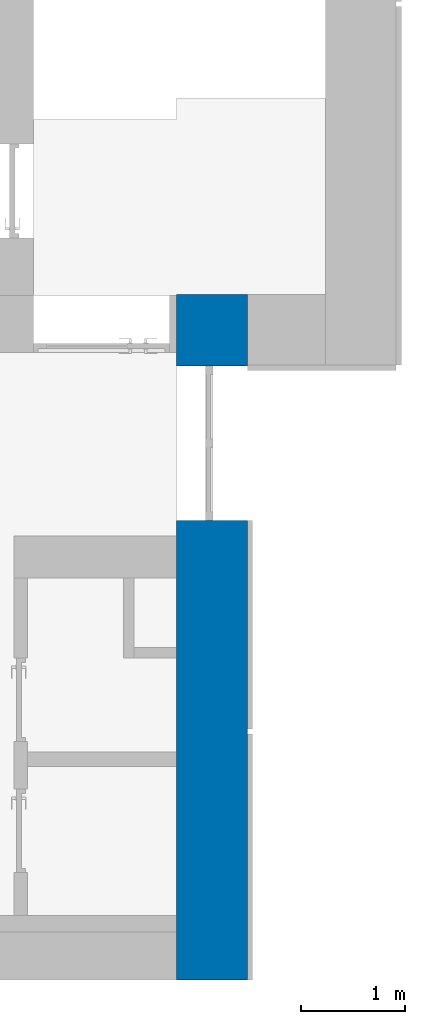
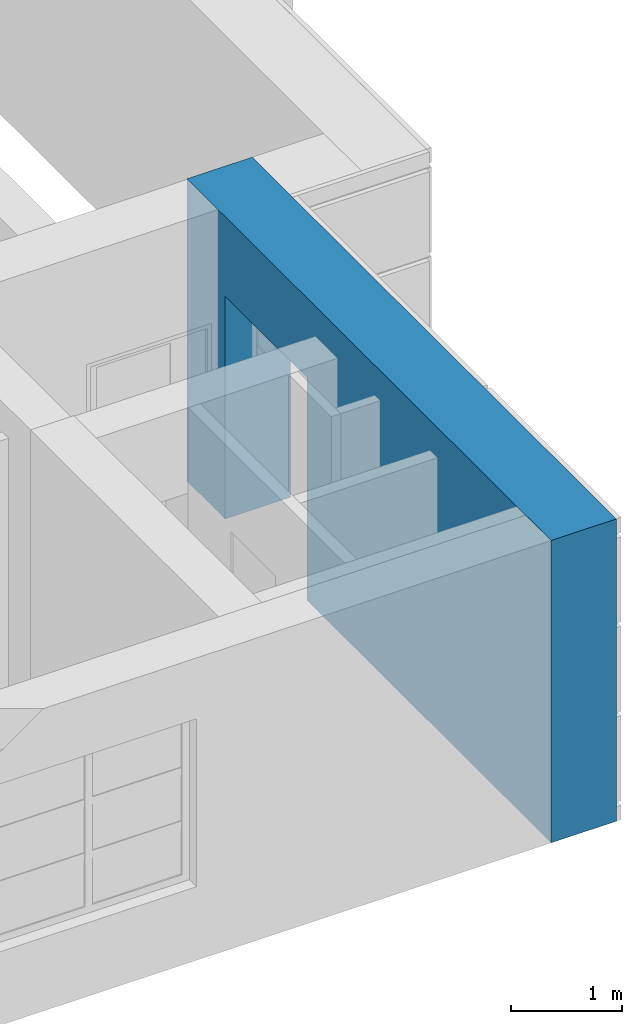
# One storey, part 69 of 73: 1 wall, 2 openings.
"""IFC2X3 building model written with IfcOpenShell, lengths in millimetres."""

from ifc_helpers import new_model, entity, si_unit, converted_unit, derived_unit, direction, frame, frame_2d, origin, place, context, subcontext, project, spatial, rectangle, extrude, material, layer, layer_set, layer_usage, type_object, element, save


model = new_model("IFC2X3")

# Units and contexts
model_context = context("Model", 3, precision=0.01, world=origin(), true_north=direction((6.12303176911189e-17, 1.0)))
body_context = subcontext(model_context, "Body", "Model", "MODEL_VIEW")
ifc_project = project(units=[si_unit("LENGTHUNIT", "METRE", prefix="MILLI"), si_unit("AREAUNIT", "SQUARE_METRE"), si_unit("VOLUMEUNIT", "CUBIC_METRE"), converted_unit("PLANEANGLEUNIT", "DEGREE", entity("IfcRatioMeasure", 0.0174532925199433), si_unit("PLANEANGLEUNIT", "RADIAN"), dimensions=[0, 0, 0, 0, 0, 0, 0]), si_unit("MASSUNIT", "GRAM", prefix="KILO"), derived_unit("MASSDENSITYUNIT", [(si_unit("MASSUNIT", "GRAM", prefix="KILO"), 1), (si_unit("LENGTHUNIT", "METRE"), -3)]), si_unit("TIMEUNIT", "SECOND"), si_unit("FREQUENCYUNIT", "HERTZ"), si_unit("THERMODYNAMICTEMPERATUREUNIT", "DEGREE_CELSIUS"), derived_unit("THERMALTRANSMITTANCEUNIT", [(si_unit("MASSUNIT", "GRAM", prefix="KILO"), 1), (si_unit("THERMODYNAMICTEMPERATUREUNIT", "KELVIN"), -1), (si_unit("TIMEUNIT", "SECOND"), -3)]), derived_unit("VOLUMETRICFLOWRATEUNIT", [(si_unit("LENGTHUNIT", "METRE"), 3), (si_unit("TIMEUNIT", "SECOND"), -1)]), si_unit("ELECTRICCURRENTUNIT", "AMPERE"), si_unit("ELECTRICVOLTAGEUNIT", "VOLT"), si_unit("POWERUNIT", "WATT"), si_unit("FORCEUNIT", "NEWTON", prefix="KILO"), si_unit("ILLUMINANCEUNIT", "LUX"), si_unit("LUMINOUSFLUXUNIT", "LUMEN"), si_unit("LUMINOUSINTENSITYUNIT", "CANDELA"), derived_unit("USERDEFINED", [(si_unit("MASSUNIT", "GRAM", prefix="KILO"), -1), (si_unit("LENGTHUNIT", "METRE"), -2), (si_unit("TIMEUNIT", "SECOND"), 3), (si_unit("LUMINOUSFLUXUNIT", "LUMEN"), 1)]), derived_unit("LINEARVELOCITYUNIT", [(si_unit("LENGTHUNIT", "METRE"), 1), (si_unit("TIMEUNIT", "SECOND"), -1)]), si_unit("PRESSUREUNIT", "PASCAL"), derived_unit("USERDEFINED", [(si_unit("LENGTHUNIT", "METRE"), -2), (si_unit("MASSUNIT", "GRAM", prefix="KILO"), 1), (si_unit("TIMEUNIT", "SECOND"), -2)])], contexts=[model_context])

# Site, building, storey
site_placement = place(None, frame((-151.875543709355, 2715.0, 0.0)))
site = spatial("IfcSite", under=ifc_project, at=site_placement, Name="Surface", CompositionType="ELEMENT")
building_placement = place(site_placement, origin())
building = spatial("IfcBuilding", under=site, at=building_placement, CompositionType="ELEMENT")
storey_placement = place(building_placement, frame((0.0, 0.0, 6730.43000000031)))
storey = spatial("IfcBuildingStorey", under=building, at=storey_placement, Name="3 korrus", CompositionType="ELEMENT", Elevation=6730.43000000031)

# Wall, openings
ifc_material_1 = material(Name="__Tuuletõkkeplaat")
ifc_layer_1 = layer(ifc_material_1, 9.0)
ifc_material_2 = material(Name="__Soojustus EPS")
ifc_layer_2 = layer(ifc_material_2, 200.0)
ifc_material_3 = material(Name="Brick, Common")
ifc_layer_3 = layer(ifc_material_3, 450.0)
ifc_material_4 = material(Name="__Kips GN13_tava")
ifc_layer_4 = layer(ifc_material_4, 20.0)
ifc_layer_set = layer_set([ifc_layer_1, ifc_layer_2, ifc_layer_3, ifc_layer_4], Name="Basic Wall:VS-2_olemasolev sein fassaadikassettidega")
ifc_layer_usage = layer_usage(ifc_layer_set, "AXIS2", "POSITIVE", -339.5)
wall_type = type_object("IfcWallType", Name="Basic Wall:VS-2_olemasolev sein fassaadikassettidega", PredefinedType="STANDARD", material=ifc_layer_set)
wall_placement = place(storey_placement, frame((34081.1162682, -0.0953674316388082, 0.00203353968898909), z_axis=(0.0, 0.0, 1.0), x_axis=(0.0, 1.0, 0.0)))
wall = element("IfcWallStandardCase", 1, at=wall_placement, inside=storey, type_object=wall_type, material=ifc_layer_usage, Name="SEIN - 003", ObjectType="Basic Wall:VS-2_olemasolev sein fassaadikassettidega", context=body_context, shape_type="SweptSolid", body=[
    extrude(rectangle(XDim=6570.09536743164, YDim=679.000000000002, at=frame_2d((3285.04768371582, 0.0), x_axis=(-1.0, 0.0))), origin(), (0.0, 0.0, 1.0), 3329.56796646),
])
opening_1_placement = place(wall_placement, origin())
element("IfcOpeningElement", 2, at=opening_1_placement, cuts=wall, Name="SEIN - 003", ObjectType="Opening", context=body_context, shape_type="SweptSolid", body=[
    extrude(rectangle(XDim=2450.0, YDim=1479.65663216, at=frame_2d((1.13686837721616e-12, 2.8421709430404e-13), x_axis=(1.0, 0.0))), frame((5142.32465396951, -848.300000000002, 4554.56796646), z_axis=(0.0, 1.0, 0.0), x_axis=(0.0, 0.0, 1.0)), (0.0, 0.0, 1.0), 1696.8),
])
opening_2_placement = place(wall_placement, frame((0.0953674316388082, 34081.1162682, -0.00203353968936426), z_axis=(0.0, 0.0, 1.0), x_axis=(0.0, -1.0, 0.0)))
element("IfcOpeningElement", 3, at=opening_2_placement, cuts=wall, Name="SEIN - 003", ObjectType="Opening", context=body_context, shape_type="SweptSolid", body=[
    extrude(rectangle(XDim=2450.0, YDim=1479.65663216, at=frame_2d((5.6843418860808e-13, 2.8421709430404e-13), x_axis=(1.0, 0.0))), frame((34929.4162682, 5142.22928653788, 1225.00203353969), z_axis=(-1.0, 0.0, 0.0), x_axis=(0.0, 0.0, 1.0)), (0.0, 0.0, 1.0), 1696.8),
])

save(model, "model.ifc")
